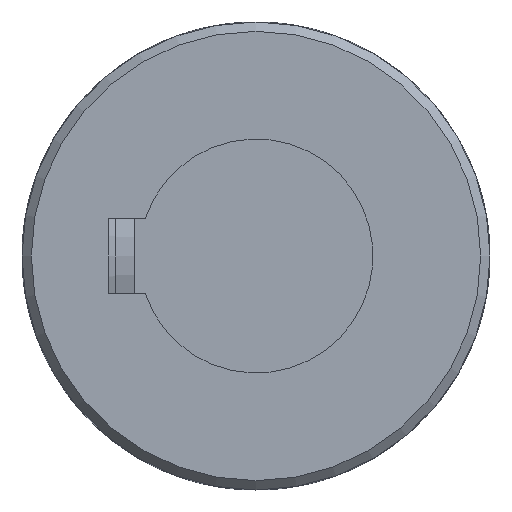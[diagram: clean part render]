
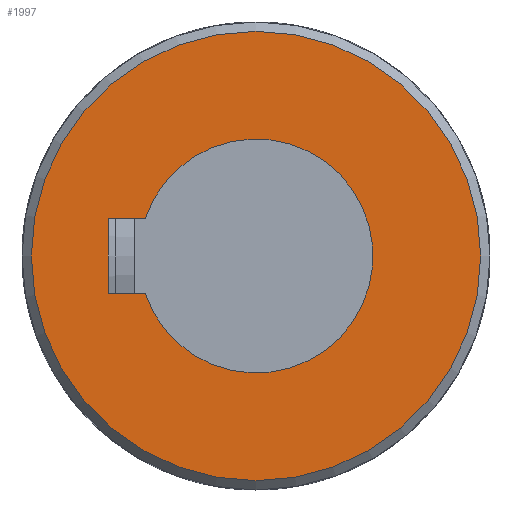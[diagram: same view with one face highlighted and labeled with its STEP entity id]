
A CAD part, front view. The second image highlights one B-rep face of the part: STEP entity #1997.
In plain terms, the highlighted planar face has unit normal (0, -1, 0).
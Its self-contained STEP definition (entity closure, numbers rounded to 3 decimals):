
#123=LINE('',#3657,#192);
#127=LINE('',#3684,#196);
#129=LINE('',#3692,#198);
#192=VECTOR('',#2557,3.957);
#196=VECTOR('',#2569,8.);
#198=VECTOR('',#2573,3.957);
#260=PLANE('',#2186);
#437=FACE_BOUND('',#695,.T.);
#532=FACE_OUTER_BOUND('',#694,.T.);
#694=EDGE_LOOP('',(#1677));
#695=EDGE_LOOP('',(#1678,#1679,#1680,#1681));
#818=CIRCLE('',#2173,12.5);
#824=CIRCLE('',#2184,24.);
#972=VERTEX_POINT('',#3654);
#973=VERTEX_POINT('',#3656);
#976=VERTEX_POINT('',#3666);
#978=VERTEX_POINT('',#3682);
#987=VERTEX_POINT('',#3769);
#1214=EDGE_CURVE('',#973,#972,#123,.T.);
#1218=EDGE_CURVE('',#976,#973,#818,.T.);
#1222=EDGE_CURVE('',#972,#978,#127,.T.);
#1225=EDGE_CURVE('',#978,#976,#129,.T.);
#1235=EDGE_CURVE('',#987,#987,#824,.T.);
#1677=ORIENTED_EDGE('',*,*,#1235,.F.);
#1678=ORIENTED_EDGE('',*,*,#1214,.T.);
#1679=ORIENTED_EDGE('',*,*,#1222,.T.);
#1680=ORIENTED_EDGE('',*,*,#1225,.T.);
#1681=ORIENTED_EDGE('',*,*,#1218,.T.);
#1997=ADVANCED_FACE('',(#532,#437),#260,.F.);
#2173=AXIS2_PLACEMENT_3D('',#3667,#2563,#2564);
#2184=AXIS2_PLACEMENT_3D('',#3770,#2590,#2591);
#2186=AXIS2_PLACEMENT_3D('',#3978,#2598,#2599);
#2557=DIRECTION('',(0.,0.,-1.));
#2563=DIRECTION('center_axis',(0.,1.,0.));
#2564=DIRECTION('ref_axis',(-0.32,0.,0.947));
#2569=DIRECTION('',(-1.,0.,0.));
#2573=DIRECTION('',(0.,0.,1.));
#2590=DIRECTION('center_axis',(0.,1.,0.));
#2591=DIRECTION('ref_axis',(1.,0.,0.));
#2598=DIRECTION('center_axis',(0.,1.,0.));
#2599=DIRECTION('ref_axis',(0.,0.,1.));
#3654=CARTESIAN_POINT('',(4.,-66.5,-15.8));
#3656=CARTESIAN_POINT('',(4.,-66.5,-11.843));
#3657=CARTESIAN_POINT('',(4.,-66.5,-5.921));
#3666=CARTESIAN_POINT('',(-4.,-66.5,-11.843));
#3667=CARTESIAN_POINT('Origin',(0.,-66.5,0.));
#3682=CARTESIAN_POINT('',(-4.,-66.5,-15.8));
#3684=CARTESIAN_POINT('',(2.,-66.5,-15.8));
#3692=CARTESIAN_POINT('',(-4.,-66.5,-7.9));
#3769=CARTESIAN_POINT('',(-24.,-66.5,0.));
#3770=CARTESIAN_POINT('Origin',(0.,-66.5,0.));
#3978=CARTESIAN_POINT('Origin',(0.,-66.5,0.));
